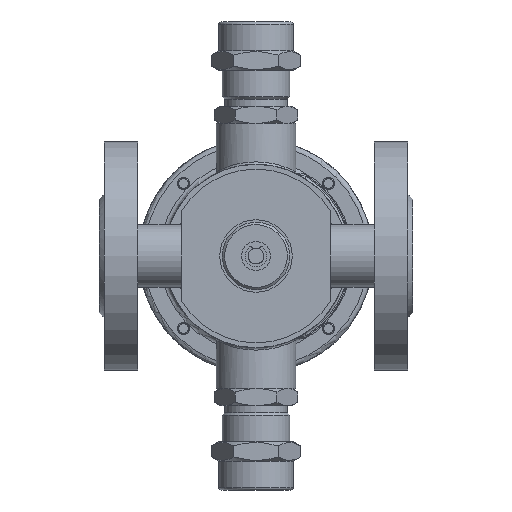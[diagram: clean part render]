
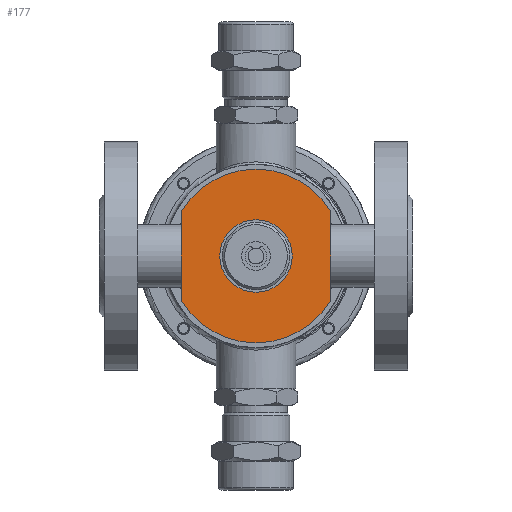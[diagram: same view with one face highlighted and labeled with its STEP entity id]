
A CAD part, front view. The second image highlights one B-rep face of the part: STEP entity #177.
In plain terms, the highlighted planar face has unit normal (0, -1, 0).
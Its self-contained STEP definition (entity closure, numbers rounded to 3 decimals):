
#177=ADVANCED_FACE('',(#5747,#5749),#5751,.T.);
#5747=FACE_BOUND('',#5748,.T.);
#5748=EDGE_LOOP('',(#20961));
#5749=FACE_OUTER_BOUND('',#5750,.T.);
#5750=EDGE_LOOP('',(#20962,#20963,#20964,#20965));
#5751=PLANE('',#5752);
#5752=AXIS2_PLACEMENT_3D('',#5753,#5754,#5755);
#5753=CARTESIAN_POINT('',(0.,-15.5,0.));
#5754=DIRECTION('',(0.,-1.,0.));
#5755=DIRECTION('',(-1.,0.,0.));
#20961=ORIENTED_EDGE('',*,*,#34017,.F.);
#20962=ORIENTED_EDGE('',*,*,#34018,.T.);
#20963=ORIENTED_EDGE('',*,*,#34019,.T.);
#20964=ORIENTED_EDGE('',*,*,#34020,.T.);
#20965=ORIENTED_EDGE('',*,*,#34021,.T.);
#34017=EDGE_CURVE('',#38670,#38670,#38672,.T.);
#34018=EDGE_CURVE('',#38673,#38674,#38675,.F.);
#34019=EDGE_CURVE('',#38674,#38676,#38677,.T.);
#34020=EDGE_CURVE('',#38676,#38678,#38679,.F.);
#34021=EDGE_CURVE('',#38678,#38673,#38680,.T.);
#38670=VERTEX_POINT('',#46587);
#38672=CIRCLE('',#46591,15.);
#38673=VERTEX_POINT('',#46595);
#38674=VERTEX_POINT('',#46596);
#38675=LINE('',#46597,#46598);
#38676=VERTEX_POINT('',#46600);
#38677=CIRCLE('',#46601,36.);
#38678=VERTEX_POINT('',#46605);
#38679=LINE('',#46606,#46607);
#38680=CIRCLE('',#46609,36.);
#46587=CARTESIAN_POINT('',(-15.,-15.5,0.));
#46591=AXIS2_PLACEMENT_3D('',#46592,#46593,#46594);
#46592=CARTESIAN_POINT('',(0.,-15.5,0.));
#46593=DIRECTION('',(0.,-1.,0.));
#46594=DIRECTION('',(-1.,0.,0.));
#46595=CARTESIAN_POINT('',(-31.,-15.5,18.303));
#46596=CARTESIAN_POINT('',(-31.,-15.5,-18.303));
#46597=CARTESIAN_POINT('',(-31.,-15.5,-18.303));
#46598=VECTOR('',#46599,1.);
#46599=DIRECTION('',(0.,0.,1.));
#46600=CARTESIAN_POINT('',(31.,-15.5,-18.303));
#46601=AXIS2_PLACEMENT_3D('',#46602,#46603,#46604);
#46602=CARTESIAN_POINT('',(0.,-15.5,0.));
#46603=DIRECTION('',(0.,-1.,0.));
#46604=DIRECTION('',(-0.861,0.,-0.508));
#46605=CARTESIAN_POINT('',(31.,-15.5,18.303));
#46606=CARTESIAN_POINT('',(31.,-15.5,18.303));
#46607=VECTOR('',#46608,1.);
#46608=DIRECTION('',(0.,0.,-1.));
#46609=AXIS2_PLACEMENT_3D('',#46610,#46611,#46612);
#46610=CARTESIAN_POINT('',(0.,-15.5,0.));
#46611=DIRECTION('',(0.,-1.,0.));
#46612=DIRECTION('',(0.861,0.,0.508));
